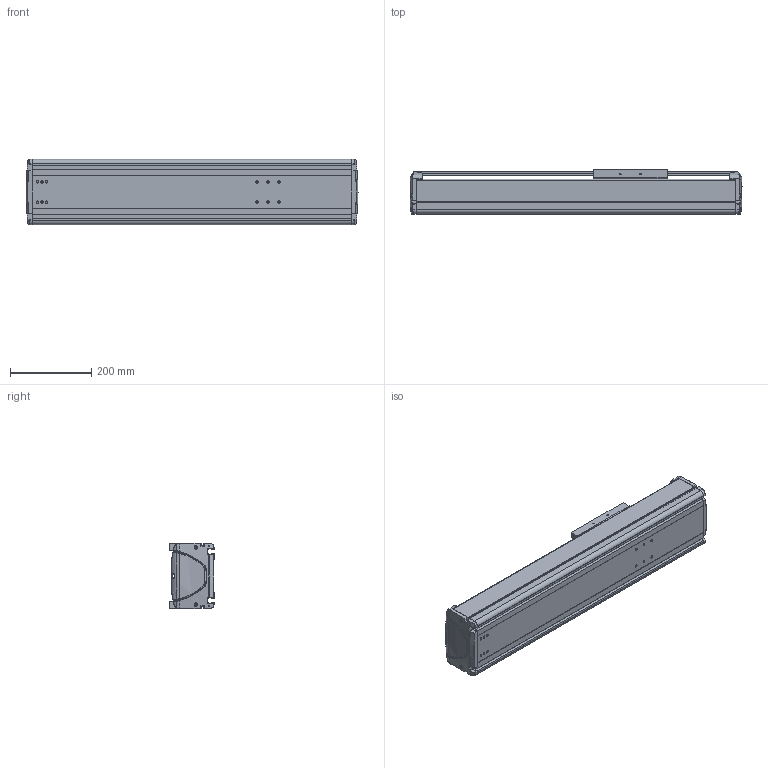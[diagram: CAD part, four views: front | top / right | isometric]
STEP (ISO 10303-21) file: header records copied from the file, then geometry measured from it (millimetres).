
FILE_DESCRIPTION((''),'2;1');
FILE_NAME('BE50G-ST-M_B-40_IGS_PRT','2017-06-18T',(' '),(''),'PRO/ENGINEER BY PARAMETRIC TECHNOLOGY CORPORATION, 2015030','PRO/ENGINEER BY PARAMETRIC TECHNOLOGY CORPORATION, 2015030','');
FILE_SCHEMA(('CONFIG_CONTROL_DESIGN'));
Length unit declared in the file: millimetre
Products named in the file (1): BE50G-ST-M_B-40_IGS_PRT
Bounding box: 814.98 x 110 x 160 mm (x, y, z)
Volume: 3513992.8 mm3; surface area: 1308544.7 mm2
Topology: 7 solids, 78 shells, 1492 faces, 3904 edges, 2509 vertices
Faces by surface type: cylinder 634, plane 573, bspline 106, torus 87, cone 52, sphere 40
Entity records: 51205 total; most frequent: CARTESIAN_POINT 14788, DIRECTION 7482, ORIENTED_EDGE 7476, EDGE_CURVE 3880, AXIS2_PLACEMENT_3D 2776, VERTEX_POINT 2507, VECTOR 1930, LINE 1930
